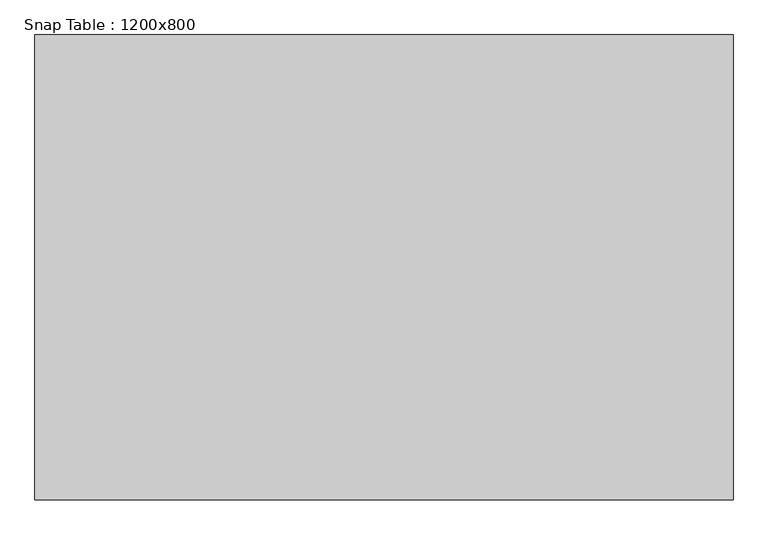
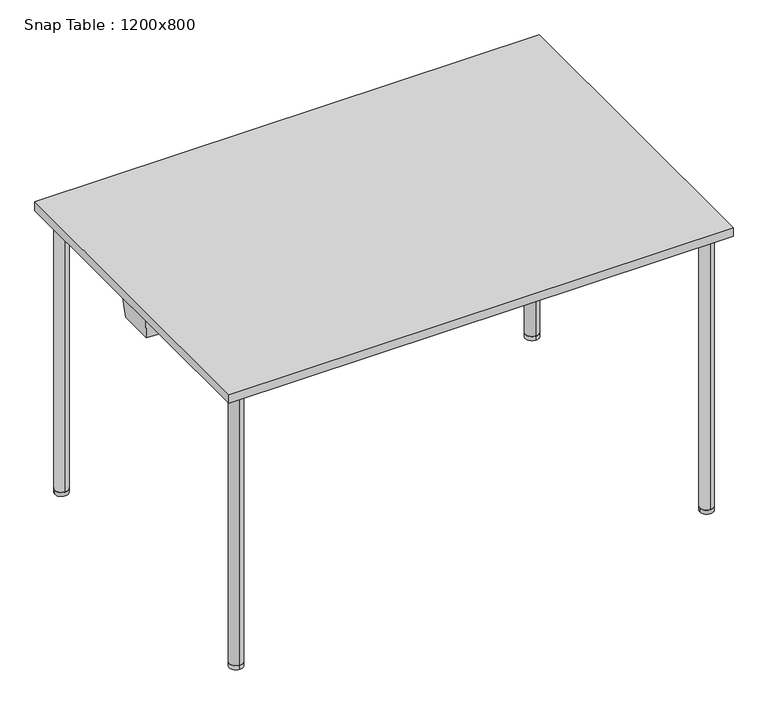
"""IFC4 building model written with IfcOpenShell, lengths in millimetres: furniture geometry, Snap Table : 1200x800."""

from ifc_helpers import new_model, si_unit, point, frame, frame_2d, origin, origin_with_axes, place, context, project, spatial, polyline, circle_curve, ellipse_curve, trimmed, segment, composite_curve, outline, extrude, faceted_brep, source, transform, mapped, element, save
from ifc_brep_helpers import plane_surface, cylinder_surface, revolved_surface, advanced_brep


def snap_table_1200x800_1dd3eaef(model_context):
    return source(origin(), model_context, "Body", "SolidModel", [
        extrude(outline(composite_curve([segment(trimmed(circle_curve(frame_2d((560.0, -360.0)), 16.0), [point((576.0, -360.0))], [point((544.0, -360.0))], False, "CARTESIAN"), True, "CONTINUOUS"), segment(trimmed(circle_curve(frame_2d((560.0, -360.0)), 16.0), [point((544.0, -360.0))], [point((576.0, -360.0))], False, "CARTESIAN"), True, "CONTINUOUS")], self_intersect=False)), origin_with_axes(), (0.0, 0.0, 1.0), 10.0),
        extrude(outline(composite_curve([segment(trimmed(circle_curve(frame_2d((560.0, 360.0)), 16.0), [point((560.0, 344.0))], [point((560.0, 376.0))], False, "CARTESIAN"), True, "CONTINUOUS"), segment(trimmed(circle_curve(frame_2d((560.0, 360.0)), 16.0), [point((560.0, 376.0))], [point((560.0, 344.0))], False, "CARTESIAN"), True, "CONTINUOUS")], self_intersect=False)), origin_with_axes(), (0.0, 0.0, 1.0), 10.0),
        advanced_brep(
        [(560.0, -376.0, 10.0), (560.0, -344.0, 10.0), (560.0, -376.0, 689.0), (560.0, -344.0, 657.0), (560.0, 376.0, 689.0), (560.0, 344.0, 657.0), (560.0, 376.0, 10.0), (560.0, 344.0, 10.0)],
        [
            (0, 1, circle_curve(frame((560.0, -360.0, 10.0), z_axis=(0.0, 0.0, -1.0), x_axis=(0.0, 1.0, 0.0)), 16.0)),
            (1, 0, circle_curve(frame((560.0, -360.0, 10.0), z_axis=(0.0, 0.0, -1.0), x_axis=(0.0, 1.0, 0.0)), 16.0)),
            (0, 2),
            (2, 3, ellipse_curve(frame((560.0, -360.0, 673.0), z_axis=(0.0, -0.7071067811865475, -0.7071067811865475), x_axis=(0.0, 0.7071067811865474, -0.7071067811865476)), 22.627417, 16.0)),
            (3, 1),
            (3, 2, ellipse_curve(frame((560.0, -360.0, 673.0), z_axis=(0.0, -0.7071067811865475, -0.7071067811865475), x_axis=(0.0, 0.7071067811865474, -0.7071067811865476)), 22.627417, 16.0)),
            (2, 4),
            (4, 5, ellipse_curve(frame((560.0, 360.0, 673.0), z_axis=(0.0, -0.7071067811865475, 0.7071067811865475), x_axis=(0.0, -0.7071067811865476, -0.7071067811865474)), 22.627417, 16.0)),
            (5, 3),
            (5, 4, ellipse_curve(frame((560.0, 360.0, 673.0), z_axis=(0.0, -0.7071067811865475, 0.7071067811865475), x_axis=(0.0, -0.7071067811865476, -0.7071067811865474)), 22.627417, 16.0)),
            (6, 7, circle_curve(frame((560.0, 360.0, 10.0), z_axis=(0.0, 0.0, -1.0), x_axis=(0.0, -1.0, 0.0)), 16.0)),
            (7, 6, circle_curve(frame((560.0, 360.0, 10.0), z_axis=(0.0, 0.0, -1.0), x_axis=(0.0, -1.0, 0.0)), 16.0)),
            (4, 6),
            (7, 5),
        ],
        [
            plane_surface(frame((560.0, -360.0, 10.0), z_axis=(0.0, 0.0, -1.0), x_axis=(-1.0, 0.0, 0.0))),
            cylinder_surface(frame((560.0, -360.0, 10.0), z_axis=(0.0, 0.0, -1.0), x_axis=(0.0, 1.0, 0.0)), 16.0),
            cylinder_surface(frame((560.0, -360.0, 673.0), z_axis=(0.0, -1.0, 0.0), x_axis=(0.0, 0.0, -1.0)), 16.0),
            plane_surface(frame((560.0, 360.0, 10.0), z_axis=(0.0, 0.0, -1.0), x_axis=(-1.0, 0.0, 0.0))),
            cylinder_surface(frame((560.0, 360.0, 673.0), z_axis=(0.0, 0.0, 1.0), x_axis=(0.0, -1.0, 0.0)), 16.0),
        ],
        [
            (0, [[1, 2]]),
            (1, [[-1, 3, 4, 5]]),
            (1, [[-2, -5, 6, -3]]),
            (2, [[-4, 7, 8, 9]]),
            (2, [[-6, -9, 10, -7]]),
            (3, [[11, 12]]),
            (4, [[-8, 13, -12, 14]]),
            (4, [[-10, -14, -11, -13]]),
        ],
    ),
        extrude(outline(composite_curve([segment(trimmed(circle_curve(frame_2d((-560.0470276, 360.0)), 16.0), [point((-576.0470276, 360.0))], [point((-544.0470276, 360.0))], False, "CARTESIAN"), True, "CONTINUOUS"), segment(trimmed(circle_curve(frame_2d((-560.0470276, 360.0)), 16.0), [point((-544.0470276, 360.0))], [point((-576.0470276, 360.0))], False, "CARTESIAN"), True, "CONTINUOUS")], self_intersect=False)), origin_with_axes(), (0.0, 0.0, 1.0), 10.0),
        extrude(outline(composite_curve([segment(trimmed(circle_curve(frame_2d((-560.0470276, -360.0)), 16.0), [point((-560.0470276, -344.0))], [point((-560.0470276, -376.0))], False, "CARTESIAN"), True, "CONTINUOUS"), segment(trimmed(circle_curve(frame_2d((-560.0470276, -360.0)), 16.0), [point((-560.0470276, -376.0))], [point((-560.0470276, -344.0))], False, "CARTESIAN"), True, "CONTINUOUS")], self_intersect=False)), origin_with_axes(), (0.0, 0.0, 1.0), 10.0),
        advanced_brep(
        [(-560.0470276, 376.0, 10.0), (-560.0470276, 344.0, 10.0), (-560.0470276, 376.0, 689.0), (-560.0470276, 344.0, 657.0), (-560.0470276, -376.0, 689.0), (-560.0470276, -344.0, 657.0), (-560.0470276, -376.0, 10.0), (-560.0470276, -344.0, 10.0)],
        [
            (0, 1, circle_curve(frame((-560.0470276, 360.0, 10.0), z_axis=(0.0, 0.0, -1.0), x_axis=(0.0, -1.0, 0.0)), 16.0)),
            (1, 0, circle_curve(frame((-560.0470276, 360.0, 10.0), z_axis=(0.0, 0.0, -1.0), x_axis=(0.0, -1.0, 0.0)), 16.0)),
            (0, 2),
            (2, 3, ellipse_curve(frame((-560.0470276, 360.0, 673.0), z_axis=(0.0, 0.7071067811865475, -0.7071067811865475), x_axis=(0.0, -0.7071067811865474, -0.7071067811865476)), 22.627417, 16.0)),
            (3, 1),
            (3, 2, ellipse_curve(frame((-560.0470276, 360.0, 673.0), z_axis=(0.0, 0.7071067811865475, -0.7071067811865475), x_axis=(0.0, -0.7071067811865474, -0.7071067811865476)), 22.627417, 16.0)),
            (2, 4),
            (4, 5, ellipse_curve(frame((-560.0470276, -360.0, 673.0), z_axis=(0.0, 0.7071067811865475, 0.7071067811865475), x_axis=(0.0, 0.7071067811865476, -0.7071067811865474)), 22.627417, 16.0)),
            (5, 3),
            (5, 4, ellipse_curve(frame((-560.0470276, -360.0, 673.0), z_axis=(0.0, 0.7071067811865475, 0.7071067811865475), x_axis=(0.0, 0.7071067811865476, -0.7071067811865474)), 22.627417, 16.0)),
            (6, 7, circle_curve(frame((-560.0470276, -360.0, 10.0), z_axis=(0.0, 0.0, -1.0), x_axis=(0.0, 1.0, 0.0)), 16.0)),
            (7, 6, circle_curve(frame((-560.0470276, -360.0, 10.0), z_axis=(0.0, 0.0, -1.0), x_axis=(0.0, 1.0, 0.0)), 16.0)),
            (4, 6),
            (7, 5),
        ],
        [
            plane_surface(frame((-560.0470276, 360.0, 10.0), z_axis=(0.0, 0.0, -1.0), x_axis=(1.0, 0.0, 0.0))),
            cylinder_surface(frame((-560.0470276, 360.0, 10.0), z_axis=(0.0, 0.0, -1.0), x_axis=(0.0, -1.0, 0.0)), 16.0),
            cylinder_surface(frame((-560.0470276, 360.0, 673.0), z_axis=(0.0, 1.0, 0.0), x_axis=(0.0, 0.0, -1.0)), 16.0),
            plane_surface(frame((-560.0470276, -360.0, 10.0), z_axis=(0.0, 0.0, -1.0), x_axis=(1.0, 0.0, 0.0))),
            cylinder_surface(frame((-560.0470276, -360.0, 673.0), z_axis=(0.0, 0.0, 1.0), x_axis=(0.0, 1.0, 0.0)), 16.0),
        ],
        [
            (0, [[1, 2]]),
            (1, [[-1, 3, 4, 5]]),
            (1, [[-2, -5, 6, -3]]),
            (2, [[-4, 7, 8, 9]]),
            (2, [[-6, -9, 10, -7]]),
            (3, [[11, 12]]),
            (4, [[-8, 13, -12, 14]]),
            (4, [[-10, -14, -11, -13]]),
        ],
    ),
        extrude(outline(polyline([(600.0, 400.0), (600.0, -400.0), (-600.0, -400.0), (-600.0, 400.0), (600.0, 400.0)])), frame((0.0, 0.0, 698.0), z_axis=(0.0, 0.0, 1.0), x_axis=(1.0, 0.0, 0.0)), (0.0, 0.0, 1.0), 22.0),
        advanced_brep(
        [(-590.8110657, 42.2236058, 643.0), (-557.6910354, 44.5767873, 643.0), (-540.5708933, 36.0824003, 643.0), (540.5710292, 36.0824678, 643.0), (557.6910354, 44.5767873, 643.0), (590.8110657, 42.2236058, 643.0), (590.8110657, -42.2236058, 643.0), (557.6044607, -44.2417031, 643.0), (540.4018781, -36.0497649, 643.0), (-540.4020196, -36.0498323, 643.0), (-557.6044607, -44.2417031, 643.0), (-590.8110657, -42.2236058, 643.0), (-594.8110657, 48.9570516, 698.0), (-594.8110657, -48.9934252, 698.0), (-556.225892, -51.3383995, 698.0), (-534.6205129, -41.049832, 698.0), (534.6203726, -41.0497653, 698.0), (556.225892, -51.3383995, 698.0), (594.8110657, -48.9934252, 698.0), (594.8110657, 48.9570516, 698.0), (556.286594, 51.6942192, 698.0), (534.8989768, 41.0824675, 698.0), (-534.8988421, 41.0824007, 698.0), (-556.286594, 51.6942192, 698.0), (-557.2475737, -46.0789118, 657.2385232), (-576.0, -46.9489596, 673.0), (-556.4614069, -50.125999, 688.6037931), (-544.0, -41.9922101, 673.0), (557.2475737, -46.0789118, 657.2385232), (544.0, -41.9922101, 673.0), (556.4614069, -50.125999, 688.6037931), (576.0, -46.9489596, 673.0), (557.3278029, 46.4175782, 657.2247231), (576.0, 47.1037405, 673.0), (556.5261576, 50.4801582, 688.618336), (544.0, 42.0461233, 673.0), (-557.3278029, 46.4175782, 657.2247231), (-544.0, 42.0461233, 673.0), (-556.5261576, 50.4801582, 688.618336), (-576.0, 47.1037405, 673.0)],
        [
            (0, 1),
            (1, 2),
            (2, 3),
            (3, 4),
            (4, 5),
            (5, 6),
            (6, 7),
            (7, 8),
            (8, 9),
            (9, 10),
            (10, 11),
            (11, 0),
            (12, 13),
            (13, 14),
            (14, 15),
            (15, 16),
            (16, 17),
            (17, 18),
            (18, 19),
            (19, 20),
            (20, 21),
            (21, 22),
            (22, 23),
            (23, 12),
            (11, 13),
            (12, 0),
            (10, 24),
            (24, 25, ellipse_curve(frame((-560.0, -47.9213432, 673.0), z_axis=(0.060176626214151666, 0.9901710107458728, 0.12625427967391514), x_axis=(0.42602826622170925, -0.13986196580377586, 0.893833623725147)), 16.1588249, 16.0)),
            (25, 26, ellipse_curve(frame((-560.0, -47.9213432, 673.0), z_axis=(0.060176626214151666, 0.9901710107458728, 0.12625427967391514), x_axis=(0.42602826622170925, -0.13986196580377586, 0.893833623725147)), 16.1588249, 16.0)),
            (26, 14),
            (9, 15),
            (26, 27, ellipse_curve(frame((-560.0, -49.6114737, 673.0), z_axis=(-0.426503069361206, 0.895631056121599, 0.1262542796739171), x_axis=(-0.8587935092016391, -0.4447977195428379, 0.2542217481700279)), 17.8644989, 16.0)),
            (27, 24, ellipse_curve(frame((-560.0, -49.6114737, 673.0), z_axis=(-0.426503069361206, 0.895631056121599, 0.1262542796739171), x_axis=(-0.8587935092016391, -0.4447977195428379, 0.2542217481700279)), 17.8644989, 16.0)),
            (8, 16),
            (7, 28),
            (28, 29, ellipse_curve(frame((560.0, -49.6114737, 673.0), z_axis=(0.42650306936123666, 0.8956310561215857, 0.1262542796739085), x_axis=(0.858793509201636, -0.4447977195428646, 0.2542217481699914)), 17.8644989, 16.0)),
            (29, 30, ellipse_curve(frame((560.0, -49.6114737, 673.0), z_axis=(0.42650306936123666, 0.8956310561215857, 0.1262542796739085), x_axis=(0.858793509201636, -0.4447977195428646, 0.2542217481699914)), 17.8644989, 16.0)),
            (30, 17),
            (6, 18),
            (30, 31, ellipse_curve(frame((560.0, -47.9213432, 673.0), z_axis=(-0.06017662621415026, 0.9901710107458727, 0.1262542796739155), x_axis=(-0.4260282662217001, -0.13986196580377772, 0.8938336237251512)), 16.1588249, 16.0)),
            (31, 28, ellipse_curve(frame((560.0, -47.9213432, 673.0), z_axis=(-0.06017662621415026, 0.9901710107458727, 0.1262542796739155), x_axis=(-0.4260282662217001, -0.13986196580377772, 0.8938336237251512)), 16.1588249, 16.0)),
            (5, 19),
            (4, 32),
            (32, 33, ellipse_curve(frame((560.0, 48.2405422, 673.0), z_axis=(-0.07030432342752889, -0.9895034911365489, 0.1262542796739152), x_axis=(0.48139832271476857, -0.14450896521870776, -0.8645072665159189)), 16.1697257, 16.0)),
            (33, 34, ellipse_curve(frame((560.0, 48.2405422, 673.0), z_axis=(-0.07030432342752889, -0.9895034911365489, 0.1262542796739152), x_axis=(0.48139832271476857, -0.14450896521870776, -0.8645072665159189)), 16.1697257, 16.0)),
            (34, 20),
            (3, 21),
            (34, 35, ellipse_curve(frame((560.0, 49.9847369, 673.0), z_axis=(0.44090536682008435, -0.8886294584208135, 0.12625427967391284), x_axis=(-0.8542943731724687, -0.45862586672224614, -0.24462918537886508)), 18.005255, 16.0)),
            (35, 32, ellipse_curve(frame((560.0, 49.9847369, 673.0), z_axis=(0.44090536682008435, -0.8886294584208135, 0.12625427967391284), x_axis=(-0.8542943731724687, -0.45862586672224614, -0.24462918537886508)), 18.005255, 16.0)),
            (2, 22),
            (1, 36),
            (36, 37, ellipse_curve(frame((-560.0, 49.9847369, 673.0), z_axis=(-0.4409053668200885, -0.8886294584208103, 0.12625427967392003), x_axis=(0.8542943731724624, -0.45862586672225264, -0.24462918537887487)), 18.005255, 16.0)),
            (37, 38, ellipse_curve(frame((-560.0, 49.9847369, 673.0), z_axis=(-0.4409053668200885, -0.8886294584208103, 0.12625427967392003), x_axis=(0.8542943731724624, -0.45862586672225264, -0.24462918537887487)), 18.005255, 16.0)),
            (38, 23),
            (38, 39, ellipse_curve(frame((-560.0, 48.2405422, 673.0), z_axis=(0.07030432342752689, -0.9895034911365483, 0.1262542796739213), x_axis=(-0.48139832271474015, -0.1445089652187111, -0.8645072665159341)), 16.1697257, 16.0)),
            (39, 36, ellipse_curve(frame((-560.0, 48.2405422, 673.0), z_axis=(0.07030432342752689, -0.9895034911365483, 0.1262542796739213), x_axis=(-0.48139832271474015, -0.1445089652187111, -0.8645072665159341)), 16.1697257, 16.0)),
            (35, 29),
            (31, 33),
            (39, 25),
            (27, 37),
        ],
        [
            plane_surface(frame((-5e-07, 0.0612866, 643.0), z_axis=(0.0, 0.0, -1.0), x_axis=(0.0, -1.0, 0.0))),
            plane_surface(frame((-5e-07, 0.0586803, 698.0), z_axis=(0.0, 0.0, 1.0), x_axis=(0.0, -1.0, 0.0))),
            plane_surface(frame((-594.8110657, -0.0181868, 698.0), z_axis=(-0.9973658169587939, 0.0, -0.07253569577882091), x_axis=(0.0, 1.0, 0.0))),
            plane_surface(frame((-575.5184789, -50.1659123, 698.0), z_axis=(-0.060176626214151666, -0.9901710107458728, -0.12625427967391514), x_axis=(-0.9981583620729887, 0.06066204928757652, 0.0))),
            plane_surface(frame((-545.4232025, -46.1941158, 698.0), z_axis=(0.426503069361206, -0.895631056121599, -0.1262542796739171), x_axis=(-0.9028557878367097, -0.4299435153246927, 0.0))),
            plane_surface(frame((-7.01e-05, -41.0497986, 698.0), z_axis=(6.211245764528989e-08, -0.9958932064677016, -0.09053574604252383), x_axis=(-0.9999999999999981, -6.236859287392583e-08, 0.0))),
            plane_surface(frame((545.4231323, -46.1940824, 698.0), z_axis=(-0.42650306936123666, -0.8956310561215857, -0.1262542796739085), x_axis=(-0.9028557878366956, 0.4299435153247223, 0.0))),
            plane_surface(frame((575.5184789, -50.1659123, 698.0), z_axis=(0.06017662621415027, -0.9901710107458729, -0.12625427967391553), x_axis=(-0.9981583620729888, -0.060662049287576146, 0.0))),
            plane_surface(frame((594.8110657, -0.0181868, 698.0), z_axis=(0.9973658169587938, 0.0, -0.07253569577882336), x_axis=(0.0, -1.0, 0.0))),
            plane_surface(frame((575.5488298, 50.3256354, 698.0), z_axis=(0.07030432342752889, 0.9895034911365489, -0.1262542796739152), x_axis=(0.9974854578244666, -0.07087144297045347, 0.0))),
            plane_surface(frame((545.5927854, 46.3883433, 698.0), z_axis=(-0.44090536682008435, 0.8886294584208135, -0.12625427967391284), x_axis=(0.8957977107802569, 0.44446199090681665, 0.0))),
            plane_surface(frame((6.73e-05, 41.082434, 698.0), z_axis=(-6.210942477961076e-08, 0.995893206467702, -0.09053574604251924), x_axis=(0.9999999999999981, 6.236554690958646e-08, 0.0))),
            plane_surface(frame((-545.5927181, 46.3883099, 698.0), z_axis=(0.44090536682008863, 0.8886294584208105, -0.12625427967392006), x_axis=(0.8957977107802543, -0.4444619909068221, 0.0))),
            plane_surface(frame((-575.5488298, 50.3256354, 698.0), z_axis=(-0.07030432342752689, 0.9895034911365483, -0.1262542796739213), x_axis=(0.9974854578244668, 0.07087144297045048, 0.0))),
            revolved_surface(polyline([(576.0, -57.55756207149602, 673.0), (576.0, 58.242412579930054, 673.0)]), (560.0, 70.0, 673.0), (0.0, -1.0, 0.0)),
            revolved_surface(polyline([(-576.0, -57.55756207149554, 673.0), (-576.0, 58.242412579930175, 673.0)]), (-560.0, 70.0, 673.0), (0.0, -1.0, 0.0)),
        ],
        [
            (0, [[1, 2, 3, 4, 5, 6, 7, 8, 9, 10, 11, 12]]),
            (1, [[13, 14, 15, 16, 17, 18, 19, 20, 21, 22, 23, 24]]),
            (2, [[-12, 25, -13, 26]]),
            (3, [[-11, 27, 28, 29, 30, -14, -25]]),
            (4, [[-10, 31, -15, -30, 32, 33, -27]]),
            (5, [[-9, 34, -16, -31]]),
            (6, [[-8, 35, 36, 37, 38, -17, -34]]),
            (7, [[-7, 39, -18, -38, 40, 41, -35]]),
            (8, [[-6, 42, -19, -39]]),
            (9, [[-5, 43, 44, 45, 46, -20, -42]]),
            (10, [[-4, 47, -21, -46, 48, 49, -43]]),
            (11, [[-3, 50, -22, -47]]),
            (12, [[-2, 51, 52, 53, 54, -23, -50]]),
            (13, [[-1, -26, -24, -54, 55, 56, -51]]),
            (14, [[57, -36, -41, 58, -44, -49]]),
            (14, [[-57, -48, -45, -58, -40, -37]]),
            (15, [[59, -28, -33, 60, -52, -56]]),
            (15, [[-59, -55, -53, -60, -32, -29]]),
        ],
    ),
        faceted_brep([(530.1271057, 282.1409864, 643.0), (530.1271057, 327.0366315, 643.0), (541.3990784, 327.0366315, 643.0), (541.3990784, 282.1409864, 643.0), (526.2186584, 278.0138349, 688.0), (544.2631531, 278.0138349, 688.0), (544.2631531, 331.163783, 688.0), (526.2186584, 331.163783, 688.0)], [[[0, 1, 2, 3]], [[4, 5, 6, 7]], [[5, 4, 0, 3]], [[6, 5, 3, 2]], [[7, 6, 2, 1]], [[4, 7, 1, 0]]]),
        extrude(outline(polyline([(526.2186584, 331.163783), (577.86026, 331.163783), (577.86026, 278.0138349), (526.2186584, 278.0138349), (526.2186584, 331.163783)])), frame((0.0, 0.0, 688.0), z_axis=(0.0, 0.0, 1.0), x_axis=(1.0, 0.0, 0.0)), (0.0, 0.0, 1.0), 10.0),
        faceted_brep([(530.1271057, -282.1409864, 643.0), (541.3990784, -282.1409864, 643.0), (541.3990784, -327.0366315, 643.0), (530.1271057, -327.0366315, 643.0), (526.2186584, -278.0138349, 688.0), (526.2186584, -331.163783, 688.0), (544.2631531, -331.163783, 688.0), (544.2631531, -278.0138349, 688.0)], [[[0, 1, 2, 3]], [[4, 5, 6, 7]], [[4, 7, 1, 0]], [[7, 6, 2, 1]], [[6, 5, 3, 2]], [[5, 4, 0, 3]]]),
        extrude(outline(polyline([(526.2186584, -331.163783), (526.2186584, -278.0138349), (577.86026, -278.0138349), (577.86026, -331.163783), (526.2186584, -331.163783)])), frame((0.0, 0.0, 688.0), z_axis=(0.0, 0.0, 1.0), x_axis=(1.0, 0.0, 0.0)), (0.0, 0.0, 1.0), 10.0),
        faceted_brep([(-530.1271057, 282.1409864, 643.0), (-541.3990784, 282.1409864, 643.0), (-541.3990784, 327.0366315, 643.0), (-530.1271057, 327.0366315, 643.0), (-526.2186584, 278.0138349, 688.0), (-526.2186584, 331.163783, 688.0), (-544.2631531, 331.163783, 688.0), (-544.2631531, 278.0138349, 688.0)], [[[0, 1, 2, 3]], [[4, 5, 6, 7]], [[4, 7, 1, 0]], [[7, 6, 2, 1]], [[6, 5, 3, 2]], [[5, 4, 0, 3]]]),
        extrude(outline(polyline([(-526.2186584, 331.163783), (-526.2186584, 278.0138349), (-577.86026, 278.0138349), (-577.86026, 331.163783), (-526.2186584, 331.163783)])), frame((0.0, 0.0, 688.0), z_axis=(0.0, 0.0, 1.0), x_axis=(1.0, 0.0, 0.0)), (0.0, 0.0, 1.0), 10.0),
        faceted_brep([(-530.1271057, -282.1409864, 643.0), (-530.1271057, -327.0366315, 643.0), (-541.3990784, -327.0366315, 643.0), (-541.3990784, -282.1409864, 643.0), (-526.2186584, -278.0138349, 688.0), (-544.2631531, -278.0138349, 688.0), (-544.2631531, -331.163783, 688.0), (-526.2186584, -331.163783, 688.0)], [[[0, 1, 2, 3]], [[4, 5, 6, 7]], [[5, 4, 0, 3]], [[6, 5, 3, 2]], [[7, 6, 2, 1]], [[4, 7, 1, 0]]]),
        extrude(outline(polyline([(-526.2186584, -331.163783), (-577.86026, -331.163783), (-577.86026, -278.0138349), (-526.2186584, -278.0138349), (-526.2186584, -331.163783)])), frame((0.0, 0.0, 688.0), z_axis=(0.0, 0.0, 1.0), x_axis=(1.0, 0.0, 0.0)), (0.0, 0.0, 1.0), 10.0),
    ])


if __name__ == "__main__":
    model = new_model("IFC4")
    model_context = context("Model", 3, world=origin())
    ifc_project = project(units=[si_unit("LENGTHUNIT", "METRE", prefix="MILLI")], contexts=[model_context])
    site = spatial("IfcSite", under=ifc_project)
    building = spatial("IfcBuilding", under=site)
    placement = place(None, origin())
    snap_table_1200x800_shape = snap_table_1200x800_1dd3eaef(model_context)
    element("IfcFurniture", 1, ObjectType="Snap Table : 1200x800", at=placement, inside=building, context=model_context, shape_type="MappedRepresentation", body=[
        mapped(snap_table_1200x800_shape, transform((0.0, 0.0, 0.0), x_axis=(1.0, 0.0, 0.0), y_axis=(0.0, 1.0, 0.0), z_axis=(0.0, 0.0, 1.0))),
    ])
    save(model, "model.ifc")
